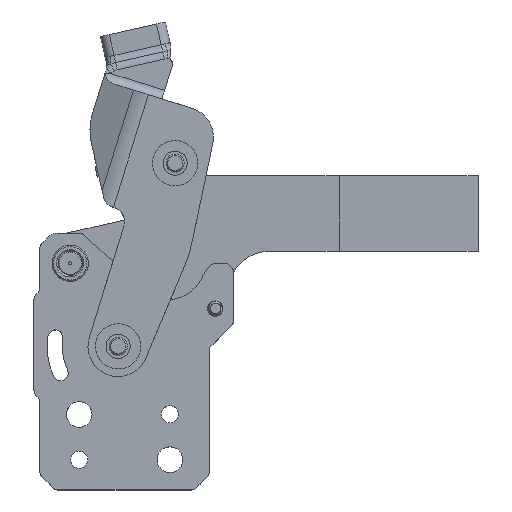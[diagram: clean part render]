
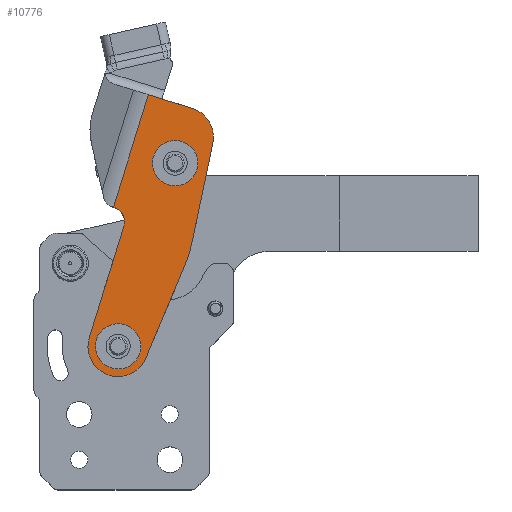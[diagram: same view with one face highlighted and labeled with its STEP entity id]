
A CAD part, top view. The second image highlights one B-rep face of the part: STEP entity #10776.
In plain terms, the highlighted planar face has unit normal (0, 0, 1) as drawn and (0, 0, -1) by its records, which use the part's own axes.
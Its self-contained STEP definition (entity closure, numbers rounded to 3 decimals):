
#866 = DIRECTION ( 'NONE',  ( 0., 0., 1. ) ) ;
#939 = DIRECTION ( 'NONE',  ( -1., 0., 0. ) ) ;
#1315 = CARTESIAN_POINT ( 'NONE',  ( -13.138, 40.045, -17. ) ) ;
#1483 = AXIS2_PLACEMENT_3D ( 'NONE', #36180, #19464, #32876 ) ;
#1575 = DIRECTION ( 'NONE',  ( 1., 0., 0. ) ) ;
#1692 = VECTOR ( 'NONE', #1575, 1000. ) ;
#1883 = EDGE_LOOP ( 'NONE', ( #9356, #24623 ) ) ;
#2032 = VERTEX_POINT ( 'NONE', #34206 ) ;
#2211 = EDGE_LOOP ( 'NONE', ( #5889, #26391, #15475, #2373, #21135, #35834, #6039, #21770, #13210, #37513 ) ) ;
#2222 = AXIS2_PLACEMENT_3D ( 'NONE', #34270, #866, #21076 ) ;
#2373 = ORIENTED_EDGE ( 'NONE', *, *, #26753, .F. ) ;
#2953 = DIRECTION ( 'NONE',  ( 0.095, -0.995, 0. ) ) ;
#3854 = EDGE_CURVE ( 'NONE', #40103, #36628, #30142, .T. ) ;
#4200 = EDGE_CURVE ( 'NONE', #36628, #40103, #10452, .T. ) ;
#4264 = FACE_BOUND ( 'NONE', #22479, .T. ) ;
#4381 = CARTESIAN_POINT ( 'NONE',  ( 0., 82.5, -17. ) ) ;
#4556 = DIRECTION ( 'NONE',  ( 0., 0., -1. ) ) ;
#5770 = AXIS2_PLACEMENT_3D ( 'NONE', #39690, #19660, #43412 ) ;
#5889 = ORIENTED_EDGE ( 'NONE', *, *, #21552, .F. ) ;
#6039 = ORIENTED_EDGE ( 'NONE', *, *, #15346, .F. ) ;
#6916 = CARTESIAN_POINT ( 'NONE',  ( -7.5, 63.5, -17. ) ) ;
#7774 = FACE_OUTER_BOUND ( 'NONE', #2211, .T. ) ;
#7992 = PLANE ( 'NONE',  #21917 ) ;
#9356 = ORIENTED_EDGE ( 'NONE', *, *, #4200, .F. ) ;
#9610 = CARTESIAN_POINT ( 'NONE',  ( 7.5, 63.5, -17. ) ) ;
#9817 = VERTEX_POINT ( 'NONE', #38327 ) ;
#10397 = CARTESIAN_POINT ( 'NONE',  ( 0., 72.5, -17. ) ) ;
#10411 = CARTESIAN_POINT ( 'NONE',  ( 0., 0., -17. ) ) ;
#10452 = CIRCLE ( 'NONE', #22359, 7.5 ) ;
#10665 = EDGE_CURVE ( 'NONE', #15643, #11488, #33157, .T. ) ;
#10776 = ADVANCED_FACE ( 'NONE', ( #38121, #7774, #4264 ), #7992, .F. ) ;
#11389 = LINE ( 'NONE', #4381, #40838 ) ;
#11454 = CARTESIAN_POINT ( 'NONE',  ( 18., 43.5, -17. ) ) ;
#11488 = VERTEX_POINT ( 'NONE', #26063 ) ;
#12549 = EDGE_CURVE ( 'NONE', #2032, #29242, #37443, .T. ) ;
#13210 = ORIENTED_EDGE ( 'NONE', *, *, #37384, .F. ) ;
#13246 = CARTESIAN_POINT ( 'NONE',  ( 10., 0., -17. ) ) ;
#13924 = DIRECTION ( 'NONE',  ( -1., 0., 0. ) ) ;
#14150 = VERTEX_POINT ( 'NONE', #32572 ) ;
#15119 = DIRECTION ( 'NONE',  ( 0., 0., -1. ) ) ;
#15346 = EDGE_CURVE ( 'NONE', #29242, #19748, #28166, .T. ) ;
#15475 = ORIENTED_EDGE ( 'NONE', *, *, #41298, .F. ) ;
#15643 = VERTEX_POINT ( 'NONE', #1315 ) ;
#16262 = CARTESIAN_POINT ( 'NONE',  ( 15.179, 0., -17. ) ) ;
#16481 = LINE ( 'NONE', #16262, #36932 ) ;
#16620 = LINE ( 'NONE', #20129, #36817 ) ;
#17065 = EDGE_CURVE ( 'NONE', #34746, #25209, #35397, .T. ) ;
#17472 = CARTESIAN_POINT ( 'NONE',  ( 0., 82.5, -17. ) ) ;
#17525 = DIRECTION ( 'NONE',  ( 0., 1., 0. ) ) ;
#18507 = CARTESIAN_POINT ( 'NONE',  ( 0., 0., -17. ) ) ;
#19198 = CARTESIAN_POINT ( 'NONE',  ( 15.179, 43.5, -17. ) ) ;
#19464 = DIRECTION ( 'NONE',  ( 0., 0., -1. ) ) ;
#19660 = DIRECTION ( 'NONE',  ( 0., 0., 1. ) ) ;
#19748 = VERTEX_POINT ( 'NONE', #19198 ) ;
#19972 = EDGE_CURVE ( 'NONE', #19748, #9817, #16481, .T. ) ;
#20129 = CARTESIAN_POINT ( 'NONE',  ( -9.955, 73.449, -17. ) ) ;
#20455 = CIRCLE ( 'NONE', #42196, 10. ) ;
#20482 = CIRCLE ( 'NONE', #2222, 10. ) ;
#20574 = AXIS2_PLACEMENT_3D ( 'NONE', #34647, #4556, #41485 ) ;
#20699 = AXIS2_PLACEMENT_3D ( 'NONE', #31388, #15119, #32251 ) ;
#21076 = DIRECTION ( 'NONE',  ( -1., 0., 0. ) ) ;
#21135 = ORIENTED_EDGE ( 'NONE', *, *, #27512, .F. ) ;
#21552 = EDGE_CURVE ( 'NONE', #11488, #14150, #33916, .T. ) ;
#21770 = ORIENTED_EDGE ( 'NONE', *, *, #12549, .F. ) ;
#21917 = AXIS2_PLACEMENT_3D ( 'NONE', #27139, #30628, #33719 ) ;
#22048 = CARTESIAN_POINT ( 'NONE',  ( 7.5, 0., -17. ) ) ;
#22359 = AXIS2_PLACEMENT_3D ( 'NONE', #18507, #38529, #31918 ) ;
#22479 = EDGE_LOOP ( 'NONE', ( #36501, #36870 ) ) ;
#24251 = DIRECTION ( 'NONE',  ( 0., 0., 1. ) ) ;
#24623 = ORIENTED_EDGE ( 'NONE', *, *, #3854, .F. ) ;
#24885 = CARTESIAN_POINT ( 'NONE',  ( -9.955, 73.449, -17. ) ) ;
#25209 = VERTEX_POINT ( 'NONE', #6916 ) ;
#26063 = CARTESIAN_POINT ( 'NONE',  ( -13.138, 32.455, -17. ) ) ;
#26391 = ORIENTED_EDGE ( 'NONE', *, *, #10665, .F. ) ;
#26753 = EDGE_CURVE ( 'NONE', #41540, #37069, #20455, .T. ) ;
#26818 = DIRECTION ( 'NONE',  ( 0., 1., 0. ) ) ;
#27139 = CARTESIAN_POINT ( 'NONE',  ( 0., 0., -17. ) ) ;
#27172 = VECTOR ( 'NONE', #2953, 1000. ) ;
#27512 = EDGE_CURVE ( 'NONE', #9817, #41540, #11389, .T. ) ;
#27566 = EDGE_CURVE ( 'NONE', #14150, #28629, #20482, .T. ) ;
#27638 = LINE ( 'NONE', #41278, #28367 ) ;
#28166 = LINE ( 'NONE', #11454, #1692 ) ;
#28367 = VECTOR ( 'NONE', #17525, 1000. ) ;
#28629 = VERTEX_POINT ( 'NONE', #13246 ) ;
#28910 = CARTESIAN_POINT ( 'NONE',  ( -7.5, 0., -17. ) ) ;
#29242 = VERTEX_POINT ( 'NONE', #33739 ) ;
#30142 = CIRCLE ( 'NONE', #35758, 7.5 ) ;
#30628 = DIRECTION ( 'NONE',  ( 0., 0., 1. ) ) ;
#31388 = CARTESIAN_POINT ( 'NONE',  ( 0., 63.5, -17. ) ) ;
#31918 = DIRECTION ( 'NONE',  ( -1., 0., 0. ) ) ;
#32251 = DIRECTION ( 'NONE',  ( -1., 0., 0. ) ) ;
#32572 = CARTESIAN_POINT ( 'NONE',  ( -9.955, -0.949, -17. ) ) ;
#32876 = DIRECTION ( 'NONE',  ( -1., 0., 0. ) ) ;
#33157 = CIRCLE ( 'NONE', #5770, 40. ) ;
#33719 = DIRECTION ( 'NONE',  ( 1., 0., 0. ) ) ;
#33739 = CARTESIAN_POINT ( 'NONE',  ( 15., 43.5, -17. ) ) ;
#33798 = EDGE_CURVE ( 'NONE', #25209, #34746, #42896, .T. ) ;
#33916 = LINE ( 'NONE', #36797, #27172 ) ;
#34206 = CARTESIAN_POINT ( 'NONE',  ( 10., 38.5, -17. ) ) ;
#34270 = CARTESIAN_POINT ( 'NONE',  ( 0., 0., -17. ) ) ;
#34567 = DIRECTION ( 'NONE',  ( 0., 0., -1. ) ) ;
#34647 = CARTESIAN_POINT ( 'NONE',  ( 15., 38.5, -17. ) ) ;
#34746 = VERTEX_POINT ( 'NONE', #9610 ) ;
#35397 = CIRCLE ( 'NONE', #20699, 7.5 ) ;
#35758 = AXIS2_PLACEMENT_3D ( 'NONE', #10411, #34567, #13924 ) ;
#35834 = ORIENTED_EDGE ( 'NONE', *, *, #19972, .F. ) ;
#36180 = CARTESIAN_POINT ( 'NONE',  ( 0., 63.5, -17. ) ) ;
#36501 = ORIENTED_EDGE ( 'NONE', *, *, #33798, .F. ) ;
#36628 = VERTEX_POINT ( 'NONE', #28910 ) ;
#36797 = CARTESIAN_POINT ( 'NONE',  ( -13.138, 32.455, -17. ) ) ;
#36817 = VECTOR ( 'NONE', #37063, 1000. ) ;
#36870 = ORIENTED_EDGE ( 'NONE', *, *, #17065, .F. ) ;
#36932 = VECTOR ( 'NONE', #26818, 1000. ) ;
#37063 = DIRECTION ( 'NONE',  ( -0.095, -0.995, 0. ) ) ;
#37069 = VERTEX_POINT ( 'NONE', #24885 ) ;
#37384 = EDGE_CURVE ( 'NONE', #28629, #2032, #27638, .T. ) ;
#37443 = CIRCLE ( 'NONE', #20574, 5. ) ;
#37513 = ORIENTED_EDGE ( 'NONE', *, *, #27566, .F. ) ;
#38121 = FACE_BOUND ( 'NONE', #1883, .T. ) ;
#38236 = DIRECTION ( 'NONE',  ( -1., 0., 0. ) ) ;
#38327 = CARTESIAN_POINT ( 'NONE',  ( 15.179, 82.5, -17. ) ) ;
#38529 = DIRECTION ( 'NONE',  ( 0., 0., -1. ) ) ;
#39690 = CARTESIAN_POINT ( 'NONE',  ( 26.681, 36.25, -17. ) ) ;
#40103 = VERTEX_POINT ( 'NONE', #22048 ) ;
#40838 = VECTOR ( 'NONE', #38236, 1000. ) ;
#41278 = CARTESIAN_POINT ( 'NONE',  ( 10., 0., -17. ) ) ;
#41298 = EDGE_CURVE ( 'NONE', #37069, #15643, #16620, .T. ) ;
#41485 = DIRECTION ( 'NONE',  ( 1., 0., 0. ) ) ;
#41540 = VERTEX_POINT ( 'NONE', #17472 ) ;
#42196 = AXIS2_PLACEMENT_3D ( 'NONE', #10397, #24251, #939 ) ;
#42896 = CIRCLE ( 'NONE', #1483, 7.5 ) ;
#43412 = DIRECTION ( 'NONE',  ( 1., 0., 0. ) ) ;
